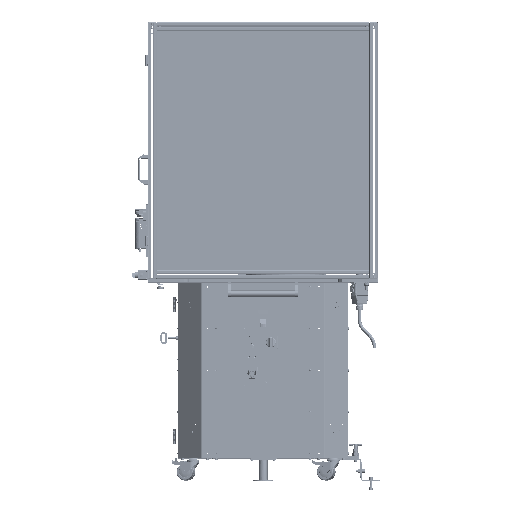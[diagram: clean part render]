
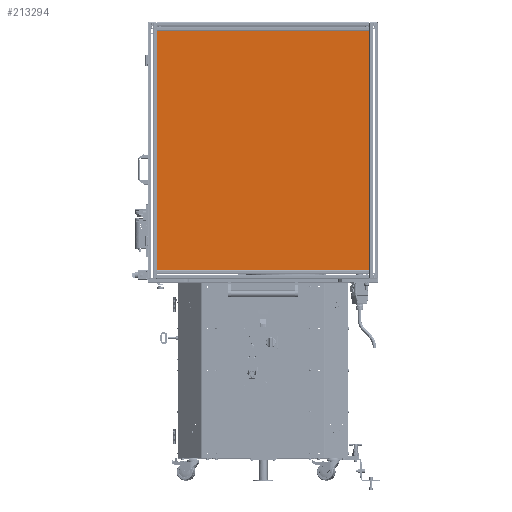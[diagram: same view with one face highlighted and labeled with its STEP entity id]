
A CAD part, top view. The second image highlights one B-rep face of the part: STEP entity #213294.
In plain terms, the highlighted planar face has unit normal (0, 0, 1).
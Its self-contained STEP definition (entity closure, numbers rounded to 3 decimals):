
#33039 = VECTOR ( 'NONE', #496259, 1000. ) ;
#36758 = LINE ( 'NONE', #553732, #307074 ) ;
#73129 = ORIENTED_EDGE ( 'NONE', *, *, #707672, .F. ) ;
#100224 = EDGE_LOOP ( 'NONE', ( #940050, #978609, #781489, #73129 ) ) ;
#112705 = CARTESIAN_POINT ( 'NONE',  ( 696.548, 1772.722, 750. ) ) ;
#155279 = DIRECTION ( 'NONE',  ( 0., -1., 0. ) ) ;
#186227 = LINE ( 'NONE', #330022, #1013911 ) ;
#213294 = ADVANCED_FACE ( 'NONE', ( #935652 ), #397355, .T. ) ;
#223181 = EDGE_CURVE ( 'NONE', #573126, #892017, #186227, .T. ) ;
#237239 = LINE ( 'NONE', #924512, #816508 ) ;
#247879 = DIRECTION ( 'NONE',  ( -1., 0., 0. ) ) ;
#273165 = VERTEX_POINT ( 'NONE', #112705 ) ;
#307074 = VECTOR ( 'NONE', #384845, 1000. ) ;
#330022 = CARTESIAN_POINT ( 'NONE',  ( 1669.548, 681.722, 750. ) ) ;
#370425 = CARTESIAN_POINT ( 'NONE',  ( 1669.548, 681.722, 750. ) ) ;
#380045 = CARTESIAN_POINT ( 'NONE',  ( 696.548, 681.722, 750. ) ) ;
#384845 = DIRECTION ( 'NONE',  ( 0., 1., 0. ) ) ;
#387213 = DIRECTION ( 'NONE',  ( 0., 0., 1. ) ) ;
#397355 = PLANE ( 'NONE',  #749138 ) ;
#409452 = LINE ( 'NONE', #481169, #33039 ) ;
#465662 = EDGE_CURVE ( 'NONE', #892017, #273165, #36758, .T. ) ;
#481169 = CARTESIAN_POINT ( 'NONE',  ( 1669.548, 1772.722, 750. ) ) ;
#496259 = DIRECTION ( 'NONE',  ( 1., 0., 0. ) ) ;
#553732 = CARTESIAN_POINT ( 'NONE',  ( 696.548, 681.722, 750. ) ) ;
#573126 = VERTEX_POINT ( 'NONE', #370425 ) ;
#637361 = CARTESIAN_POINT ( 'NONE',  ( 1669.548, 1772.722, 750. ) ) ;
#694743 = CARTESIAN_POINT ( 'NONE',  ( 1183.048, 1227.222, 750. ) ) ;
#707672 = EDGE_CURVE ( 'NONE', #273165, #953098, #409452, .T. ) ;
#743339 = EDGE_CURVE ( 'NONE', #953098, #573126, #237239, .T. ) ;
#749138 = AXIS2_PLACEMENT_3D ( 'NONE', #694743, #387213, #945724 ) ;
#781489 = ORIENTED_EDGE ( 'NONE', *, *, #743339, .F. ) ;
#816508 = VECTOR ( 'NONE', #155279, 1000. ) ;
#892017 = VERTEX_POINT ( 'NONE', #380045 ) ;
#924512 = CARTESIAN_POINT ( 'NONE',  ( 1669.548, 681.722, 750. ) ) ;
#935652 = FACE_OUTER_BOUND ( 'NONE', #100224, .T. ) ;
#940050 = ORIENTED_EDGE ( 'NONE', *, *, #465662, .F. ) ;
#945724 = DIRECTION ( 'NONE',  ( 0., 1., 0. ) ) ;
#953098 = VERTEX_POINT ( 'NONE', #637361 ) ;
#978609 = ORIENTED_EDGE ( 'NONE', *, *, #223181, .F. ) ;
#1013911 = VECTOR ( 'NONE', #247879, 1000. ) ;
